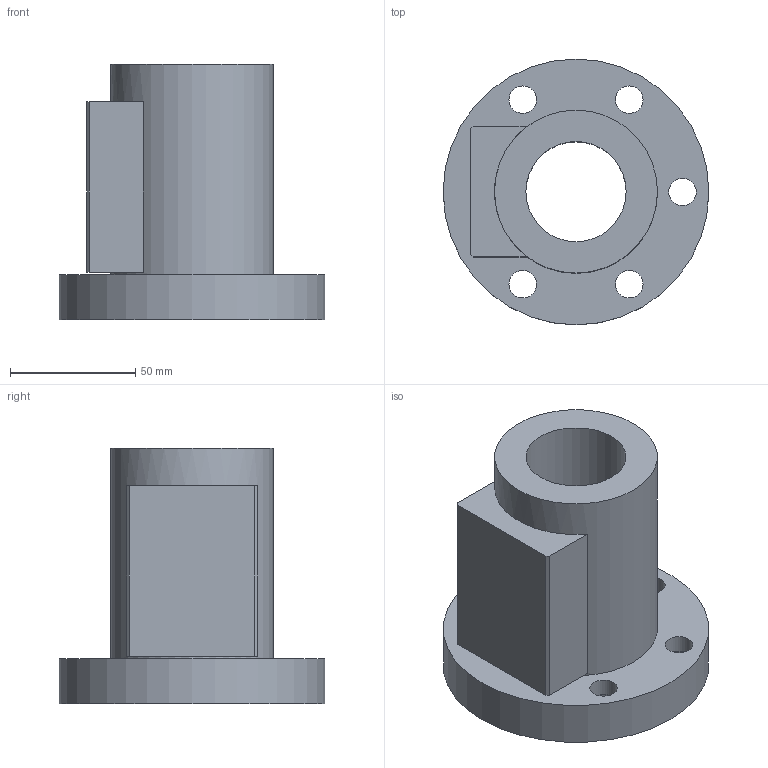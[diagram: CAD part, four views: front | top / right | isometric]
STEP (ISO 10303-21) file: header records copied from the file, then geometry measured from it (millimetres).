
FILE_DESCRIPTION(/* description */ (''),/* implementation_level */ '2;1');
FILE_NAME(/* name */ '40-10B2',/* time_stamp */ '2006-07-31T10:07:46+08:00',/* author */ (''),/* organization */ (''),/* preprocessor_version */ 'ST-DEVELOPER v9',/* originating_system */ 'UGS - NX 4.0',/* authorisation */ '');
FILE_SCHEMA (('CONFIG_CONTROL_DESIGN'));
Length unit declared in the file: millimetre
Products named in the file (1): 40-10B2
Bounding box: 106 x 106 x 102 mm (x, y, z)
Volume: 340215.8 mm3; surface area: 58194.9 mm2
Topology: 1 solids, 1 shells, 28 faces, 61 edges, 42 vertices
Faces by surface type: plane 15, cylinder 13
Full cylindrical faces by diameter (mm): 11 x5, 17.5 x5, 40 x1, 65 x1, 106 x1
Entity records: 794 total; most frequent: DIRECTION 130, CARTESIAN_POINT 111, ORIENTED_EDGE 88, EDGE_LOOP 60, AXIS2_PLACEMENT_3D 57, FACE_BOUND 45, EDGE_CURVE 44, VERTEX_POINT 38
